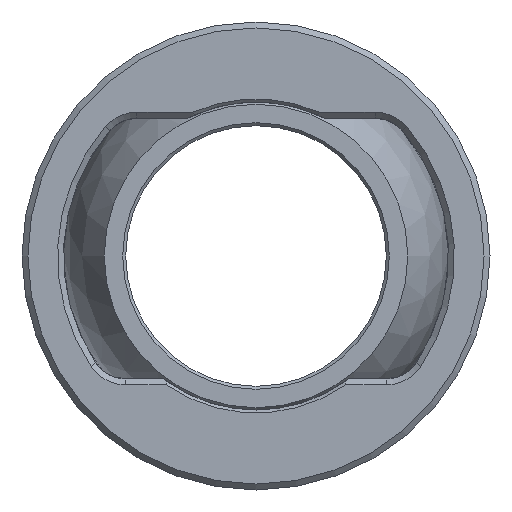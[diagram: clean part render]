
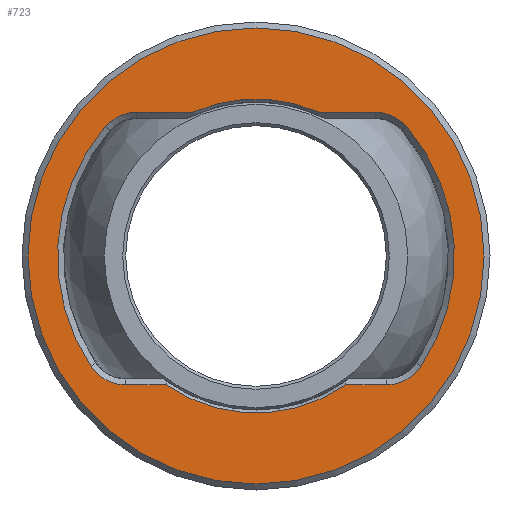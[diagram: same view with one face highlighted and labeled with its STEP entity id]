
A CAD part, front view. The second image highlights one B-rep face of the part: STEP entity #723.
In plain terms, the highlighted planar face has unit normal (0, -1, 0).
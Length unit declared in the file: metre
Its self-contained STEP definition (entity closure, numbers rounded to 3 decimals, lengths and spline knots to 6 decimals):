
#723=ADVANCED_FACE('',(#1660,#1661),#1662,.F.);
#1660=FACE_OUTER_BOUND('',#3240,.T.);
#1661=FACE_BOUND('',#3241,.T.);
#1662=PLANE('',#3242);
#3240=EDGE_LOOP('',(#5129));
#3241=EDGE_LOOP('',(#5130,#5131,#5132,#5133,#5134,#5135,#5136,#5137,#5138,#5139,#5140,#5141));
#3242=AXIS2_PLACEMENT_3D('',#5142,#5143,#5144);
#5129=ORIENTED_EDGE('',*,*,#5699,.F.);
#5130=ORIENTED_EDGE('',*,*,#5696,.T.);
#5131=ORIENTED_EDGE('',*,*,#5743,.T.);
#5132=ORIENTED_EDGE('',*,*,#5710,.T.);
#5133=ORIENTED_EDGE('',*,*,#5720,.T.);
#5134=ORIENTED_EDGE('',*,*,#5744,.T.);
#5135=ORIENTED_EDGE('',*,*,#5745,.T.);
#5136=ORIENTED_EDGE('',*,*,#5746,.T.);
#5137=ORIENTED_EDGE('',*,*,#5747,.T.);
#5138=ORIENTED_EDGE('',*,*,#5748,.T.);
#5139=ORIENTED_EDGE('',*,*,#5749,.T.);
#5140=ORIENTED_EDGE('',*,*,#5750,.T.);
#5141=ORIENTED_EDGE('',*,*,#5751,.T.);
#5142=CARTESIAN_POINT('',(0.042519,-0.002583,0.0));
#5143=DIRECTION('',(0.0,1.0,0.0));
#5144=DIRECTION('',(0.0,0.0,1.0));
#5696=EDGE_CURVE('',#5824,#5829,#5831,.T.);
#5699=EDGE_CURVE('',#5835,#5835,#5836,.T.);
#5710=EDGE_CURVE('',#5853,#5854,#5855,.T.);
#5720=EDGE_CURVE('',#5854,#5869,#5871,.T.);
#5743=EDGE_CURVE('',#5829,#5853,#5908,.T.);
#5744=EDGE_CURVE('',#5869,#5909,#5910,.T.);
#5745=EDGE_CURVE('',#5909,#5911,#5912,.T.);
#5746=EDGE_CURVE('',#5911,#5913,#5914,.T.);
#5747=EDGE_CURVE('',#5913,#5915,#5916,.T.);
#5748=EDGE_CURVE('',#5915,#5917,#5918,.T.);
#5749=EDGE_CURVE('',#5917,#5919,#5920,.T.);
#5750=EDGE_CURVE('',#5919,#5921,#5922,.T.);
#5751=EDGE_CURVE('',#5921,#5824,#5923,.T.);
#5824=VERTEX_POINT('',#6013);
#5829=VERTEX_POINT('',#6019);
#5831=CIRCLE('',#6022,0.007);
#5835=VERTEX_POINT('',#6026);
#5836=CIRCLE('',#6027,0.0385);
#5853=VERTEX_POINT('',#6044);
#5854=VERTEX_POINT('',#6045);
#5855=CIRCLE('',#6046,0.0265);
#5869=VERTEX_POINT('',#6067);
#5871=LINE('',#6070,#6071);
#5908=LINE('',#6131,#6132);
#5909=VERTEX_POINT('',#6133);
#5910=CIRCLE('',#6134,0.007);
#5911=VERTEX_POINT('',#6135);
#5912=CIRCLE('',#6136,0.0335);
#5913=VERTEX_POINT('',#6137);
#5914=CIRCLE('',#6138,0.007);
#5915=VERTEX_POINT('',#6139);
#5916=LINE('',#6140,#6141);
#5917=VERTEX_POINT('',#6142);
#5918=CIRCLE('',#6143,0.0265);
#5919=VERTEX_POINT('',#6144);
#5920=LINE('',#6145,#6146);
#5921=VERTEX_POINT('',#6147);
#5922=CIRCLE('',#6148,0.007);
#5923=CIRCLE('',#6149,0.0335);
#6013=CARTESIAN_POINT('',(0.043589,-0.002583,0.021807));
#6019=CARTESIAN_POINT('',(0.048903,-0.002583,0.02425));
#6022=AXIS2_PLACEMENT_3D('',#6309,#6310,#6311);
#6026=CARTESIAN_POINT('',(0.069019,-0.002583,0.0385));
#6027=AXIS2_PLACEMENT_3D('',#6315,#6316,#6317);
#6044=CARTESIAN_POINT('',(0.058334,-0.002583,0.02425));
#6045=CARTESIAN_POINT('',(0.079705,-0.002583,0.02425));
#6046=AXIS2_PLACEMENT_3D('',#6336,#6337,#6338);
#6067=CARTESIAN_POINT('',(0.089136,-0.002583,0.02425));
#6070=CARTESIAN_POINT('',(0.089136,-0.002583,0.02425));
#6071=VECTOR('',#6350,1.0);
#6131=CARTESIAN_POINT('',(0.056304,-0.002583,0.02425));
#6132=VECTOR('',#6380,1.0);
#6133=CARTESIAN_POINT('',(0.09445,-0.002583,0.021807));
#6134=AXIS2_PLACEMENT_3D('',#6381,#6382,#6383);
#6135=CARTESIAN_POINT('',(0.096851,-0.002583,-0.018646));
#6136=AXIS2_PLACEMENT_3D('',#6384,#6385,#6386);
#6137=CARTESIAN_POINT('',(0.091035,-0.002583,-0.02175));
#6138=AXIS2_PLACEMENT_3D('',#6387,#6388,#6389);
#6139=CARTESIAN_POINT('',(0.084158,-0.002583,-0.02175));
#6140=CARTESIAN_POINT('',(0.085502,-0.002583,-0.02175));
#6141=VECTOR('',#6390,1.0);
#6142=CARTESIAN_POINT('',(0.053881,-0.002583,-0.02175));
#6143=AXIS2_PLACEMENT_3D('',#6391,#6392,#6393);
#6144=CARTESIAN_POINT('',(0.047004,-0.002583,-0.02175));
#6145=CARTESIAN_POINT('',(0.047004,-0.002583,-0.02175));
#6146=VECTOR('',#6394,1.0);
#6147=CARTESIAN_POINT('',(0.041188,-0.002583,-0.018646));
#6148=AXIS2_PLACEMENT_3D('',#6395,#6396,#6397);
#6149=AXIS2_PLACEMENT_3D('',#6398,#6399,#6400);
#6309=CARTESIAN_POINT('',(0.048903,-0.002583,0.01725));
#6310=DIRECTION('',(0.0,1.0,0.0));
#6311=DIRECTION('',(0.0,0.0,1.0));
#6315=CARTESIAN_POINT('',(0.069019,-0.002583,0.0));
#6316=DIRECTION('',(0.0,1.0,0.0));
#6317=DIRECTION('',(0.0,0.0,1.0));
#6336=CARTESIAN_POINT('',(0.069019,-0.002583,0.0));
#6337=DIRECTION('',(0.0,1.0,0.0));
#6338=DIRECTION('',(0.0,0.0,1.0));
#6350=DIRECTION('',(1.0,0.0,0.0));
#6380=DIRECTION('',(1.0,0.0,0.0));
#6381=CARTESIAN_POINT('',(0.089136,-0.002583,0.01725));
#6382=DIRECTION('',(0.0,1.0,0.0));
#6383=DIRECTION('',(0.0,0.0,1.0));
#6384=CARTESIAN_POINT('',(0.069019,-0.002583,0.));
#6385=DIRECTION('',(0.0,1.0,0.0));
#6386=DIRECTION('',(0.0,0.0,1.0));
#6387=CARTESIAN_POINT('',(0.091035,-0.002583,-0.01475));
#6388=DIRECTION('',(0.0,1.0,0.0));
#6389=DIRECTION('',(0.0,0.0,1.0));
#6390=DIRECTION('',(-1.0,0.0,0.0));
#6391=CARTESIAN_POINT('',(0.069019,-0.002583,0.0));
#6392=DIRECTION('',(0.0,1.0,0.0));
#6393=DIRECTION('',(0.0,0.0,1.0));
#6394=DIRECTION('',(-1.0,0.0,0.0));
#6395=CARTESIAN_POINT('',(0.047004,-0.002583,-0.01475));
#6396=DIRECTION('',(0.0,1.0,0.0));
#6397=DIRECTION('',(0.0,0.0,1.0));
#6398=CARTESIAN_POINT('',(0.069019,-0.002583,0.));
#6399=DIRECTION('',(0.0,1.0,0.0));
#6400=DIRECTION('',(0.0,0.0,1.0));
